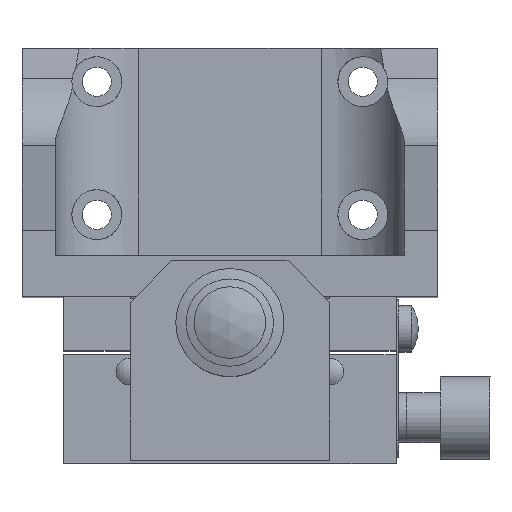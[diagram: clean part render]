
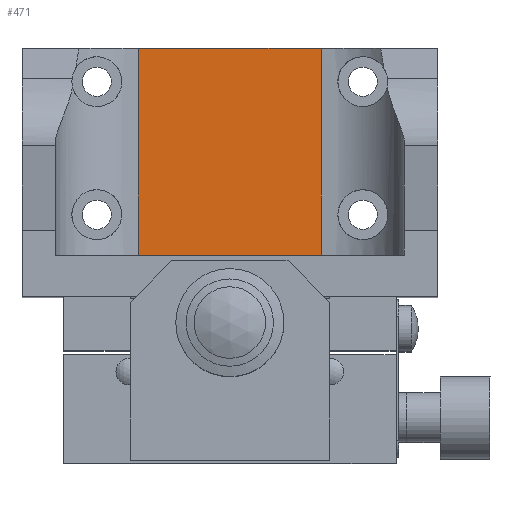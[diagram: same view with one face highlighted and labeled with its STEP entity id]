
A CAD part, top view. The second image highlights one B-rep face of the part: STEP entity #471.
In plain terms, the highlighted planar face has unit normal (0, 0, 1).
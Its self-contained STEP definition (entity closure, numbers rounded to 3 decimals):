
#471 = ADVANCED_FACE( '', ( #1023 ), #1024, .T. );
#1023 = FACE_OUTER_BOUND( '', #1614, .T. );
#1024 = PLANE( '', #1615 );
#1614 = EDGE_LOOP( '', ( #2743, #2744, #2745, #2746 ) );
#1615 = AXIS2_PLACEMENT_3D( '', #2747, #2748, #2749 );
#2743 = ORIENTED_EDGE( '', *, *, #3118, .T. );
#2744 = ORIENTED_EDGE( '', *, *, #3190, .F. );
#2745 = ORIENTED_EDGE( '', *, *, #3245, .F. );
#2746 = ORIENTED_EDGE( '', *, *, #3418, .F. );
#2747 = CARTESIAN_POINT( '', ( 36., 25., 5. ) );
#2748 = DIRECTION( '', ( 0., 0., 1. ) );
#2749 = DIRECTION( '', ( 1., 0., 0. ) );
#3118 = EDGE_CURVE( '', #3696, #3694, #3697, .T. );
#3190 = EDGE_CURVE( '', #3809, #3694, #3811, .F. );
#3245 = EDGE_CURVE( '', #3892, #3809, #3894, .T. );
#3418 = EDGE_CURVE( '', #3696, #3892, #4125, .T. );
#3694 = VERTEX_POINT( '', #4541 );
#3696 = VERTEX_POINT( '', #4543 );
#3697 = LINE( '', #4544, #4545 );
#3809 = VERTEX_POINT( '', #4824 );
#3811 = LINE( '', #4826, #4827 );
#3892 = VERTEX_POINT( '', #4982 );
#3894 = LINE( '', #4984, #4985 );
#4125 = LINE( '', #5297, #5298 );
#4541 = CARTESIAN_POINT( '', ( 14., -25., 5. ) );
#4543 = CARTESIAN_POINT( '', ( 14., 0., 5. ) );
#4544 = CARTESIAN_POINT( '', ( 14., 25., 5. ) );
#4545 = VECTOR( '', #5505, 1000. );
#4824 = CARTESIAN_POINT( '', ( 36., -25., 5. ) );
#4826 = CARTESIAN_POINT( '', ( 36., -25., 5. ) );
#4827 = VECTOR( '', #5589, 1000. );
#4982 = CARTESIAN_POINT( '', ( 36., 0., 5. ) );
#4984 = CARTESIAN_POINT( '', ( 36., 25., 5. ) );
#4985 = VECTOR( '', #5667, 1000. );
#5297 = CARTESIAN_POINT( '', ( 25., 0., 5. ) );
#5298 = VECTOR( '', #5839, 1000. );
#5505 = DIRECTION( '', ( 0., -1., 0. ) );
#5589 = DIRECTION( '', ( 1., 0., 0. ) );
#5667 = DIRECTION( '', ( 0., -1., 0. ) );
#5839 = DIRECTION( '', ( 1., 0., 0. ) );
